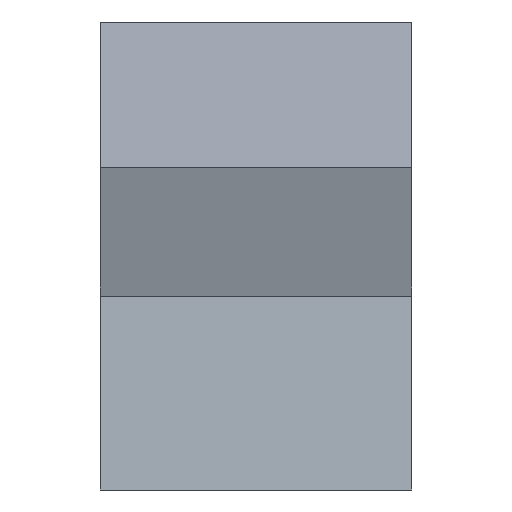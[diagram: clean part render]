
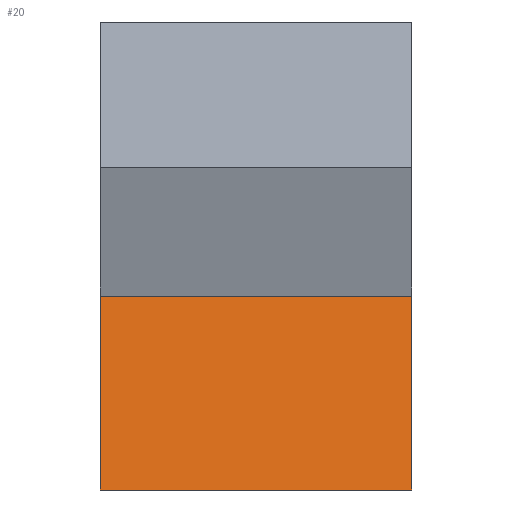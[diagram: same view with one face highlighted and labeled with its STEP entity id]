
A CAD part, front view. The second image highlights one B-rep face of the part: STEP entity #20.
In plain terms, the highlighted planar face has unit normal (0, -0.986, 0.167).
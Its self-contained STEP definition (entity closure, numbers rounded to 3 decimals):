
#20=ADVANCED_FACE('',(#28),#128,.T.);
#28=FACE_OUTER_BOUND('',#36,.T.);
#36=EDGE_LOOP('',(#63,#64,#65,#66));
#63=ORIENTED_EDGE('',*,*,#89,.F.);
#64=ORIENTED_EDGE('',*,*,#85,.F.);
#65=ORIENTED_EDGE('',*,*,#92,.F.);
#66=ORIENTED_EDGE('',*,*,#82,.F.);
#82=EDGE_CURVE('',#117,#118,#100,.T.);
#85=EDGE_CURVE('',#121,#122,#103,.T.);
#89=EDGE_CURVE('',#122,#117,#107,.T.);
#92=EDGE_CURVE('',#118,#121,#110,.T.);
#100=B_SPLINE_CURVE_WITH_KNOTS('',1,(#207,#208),.UNSPECIFIED.,.F.,.F.,(2,
2),(323.547,868.754),.UNSPECIFIED.);
#103=B_SPLINE_CURVE_WITH_KNOTS('',1,(#213,#214),.UNSPECIFIED.,.F.,.F.,(2,
2),(-868.754,-323.547),.UNSPECIFIED.);
#107=B_SPLINE_CURVE_WITH_KNOTS('',1,(#221,#222),.UNSPECIFIED.,.F.,.F.,(2,
2),(-800.,0.),.UNSPECIFIED.);
#110=B_SPLINE_CURVE_WITH_KNOTS('',1,(#227,#228),.UNSPECIFIED.,.F.,.F.,(2,
2),(-1920.941,-1120.941),.UNSPECIFIED.);
#117=VERTEX_POINT('',#187);
#118=VERTEX_POINT('',#188);
#121=VERTEX_POINT('',#191);
#122=VERTEX_POINT('',#192);
#128=PLANE('',#156);
#156=AXIS2_PLACEMENT_3D('',#178,#167,$);
#167=DIRECTION('',(0.,-0.986,0.166));
#178=CARTESIAN_POINT('',(5139.32,-168.852,-706.313));
#187=CARTESIAN_POINT('',(4297.955,-119.028,-411.202));
#188=CARTESIAN_POINT('',(4297.955,-35.07,86.087));
#191=CARTESIAN_POINT('',(5097.955,-35.07,86.087));
#192=CARTESIAN_POINT('',(5097.955,-119.028,-411.202));
#207=CARTESIAN_POINT('',(4297.955,-119.028,-411.202));
#208=CARTESIAN_POINT('',(4297.955,-35.07,86.087));
#213=CARTESIAN_POINT('',(5097.955,-35.07,86.087));
#214=CARTESIAN_POINT('',(5097.955,-119.028,-411.202));
#221=CARTESIAN_POINT('',(5097.955,-119.028,-411.202));
#222=CARTESIAN_POINT('',(4297.955,-119.028,-411.202));
#227=CARTESIAN_POINT('',(4297.955,-35.07,86.087));
#228=CARTESIAN_POINT('',(5097.955,-35.07,86.087));
